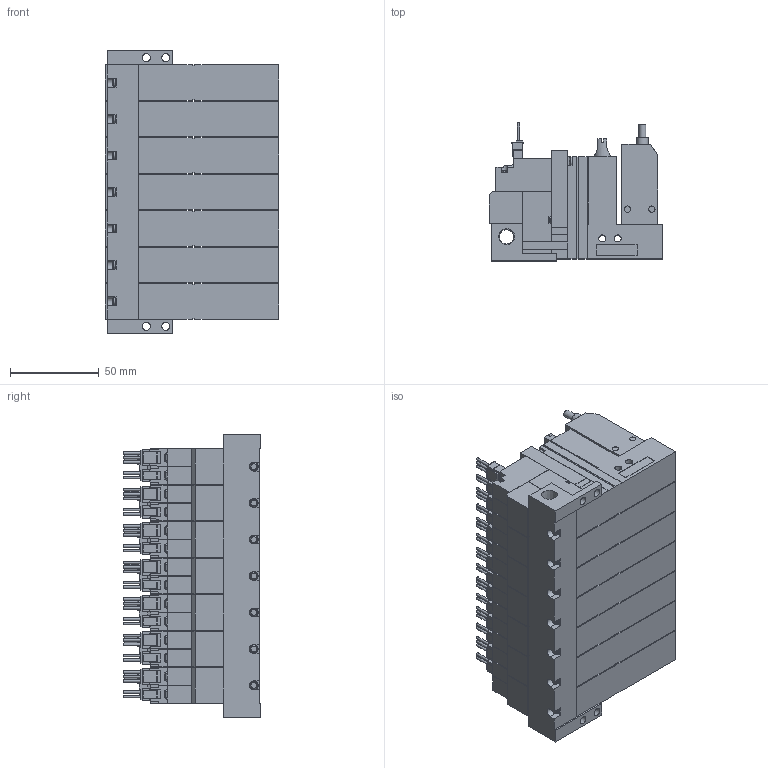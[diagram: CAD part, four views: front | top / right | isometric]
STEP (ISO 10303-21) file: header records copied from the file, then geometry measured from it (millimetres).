
FILE_DESCRIPTION(('STEP AP203'),'1');
FILE_NAME('ABS_ABPLC5WLR707.stp','2025-02-25T02:23:10',(' '),(' '),'Spatial InterOp 3D',' ',' ');
FILE_SCHEMA(('CONFIG_CONTROL_DESIGN'));
Length unit declared in the file: millimetre
Products named in the file (5): BMC22M※※※※ABS_ABPLC5WLR707; Solenoid valve W; Pressure sensor ABSLC; Unit LC; Base MR70R
Assembly tree (22 placements, depth 2):
  BMC22M※※※※ABS_ABPLC5WLR707
    Solenoid valve W  x7
    Pressure sensor ABSLC  x7
    Unit LC  x7
    Base MR70R
Bounding box: 97.6 x 77.45 x 159 mm (x, y, z)
Volume: 716844.6 mm3; surface area: 187661.4 mm2
Topology: 22 solids, 22 shells, 2765 faces, 7409 edges, 4870 vertices
Faces by surface type: plane 2352, cylinder 320, cone 51, torus 42
Full cylindrical faces by diameter (mm): 1.4 x35, 2.5 x7, 3 x28, 3.5 x42, 3.6 x7, 4 x21, 4.134 x7, 4.5 x4, 5.2 x7, 6 x7, 6.5 x7, 6.6 x7, 8.279 x1
Entity records: 15729 total; most frequent: CARTESIAN_POINT 3058, DIRECTION 2508, ORIENTED_EDGE 2422, EDGE_CURVE 1211, LINE 964, VECTOR 964, VERTEX_POINT 851, AXIS2_PLACEMENT_3D 772
